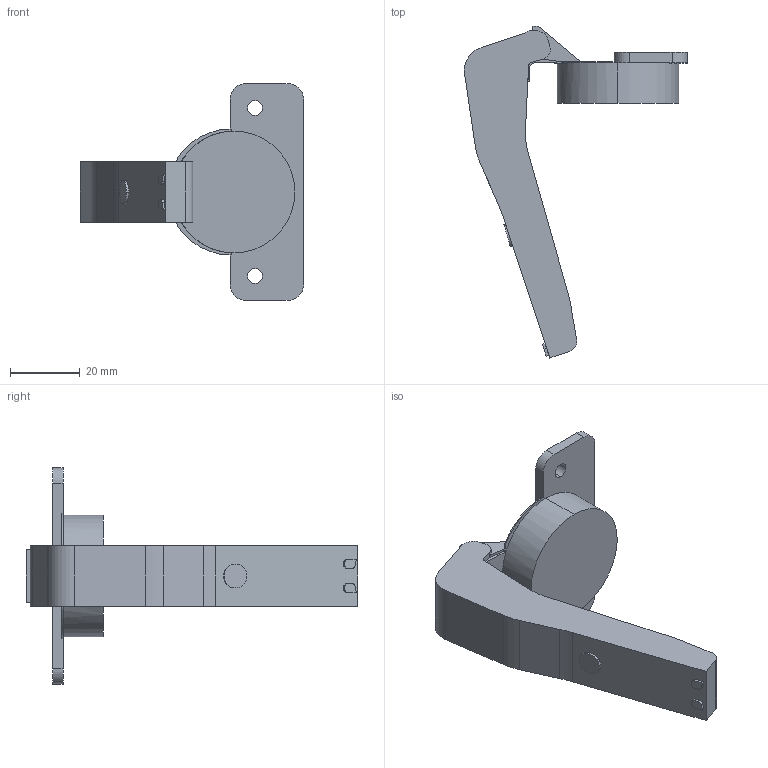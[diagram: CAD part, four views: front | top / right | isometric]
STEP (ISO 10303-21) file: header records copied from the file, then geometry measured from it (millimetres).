
FILE_DESCRIPTION (( 'STEP AP203' ), '1' );
FILE_NAME ('C82J276F-DTC 3D open.STEP', '2024-09-09T01:03:21', ( '微软用户' ), ( '微软中国' ), 'SwSTEP 2.0', 'SolidWorks 2021', '' );
FILE_SCHEMA (( 'CONFIG_CONTROL_DESIGN' ));
Length unit declared in the file: millimetre
Products named in the file (1): C82J276F-DTC 3D open
Bounding box: 63.76 x 94.83 x 61.96 mm (x, y, z)
Volume: 37077.4 mm3; surface area: 11706.1 mm2
Topology: 1 solids, 1 shells, 103 faces, 291 edges, 194 vertices
Faces by surface type: plane 49, cylinder 46, bspline 4, cone 2, torus 2
Entity records: 4113 total; most frequent: CARTESIAN_POINT 1350, ORIENTED_EDGE 582, DIRECTION 555, EDGE_CURVE 291, AXIS2_PLACEMENT_3D 195, VERTEX_POINT 194, LINE 165, VECTOR 165
